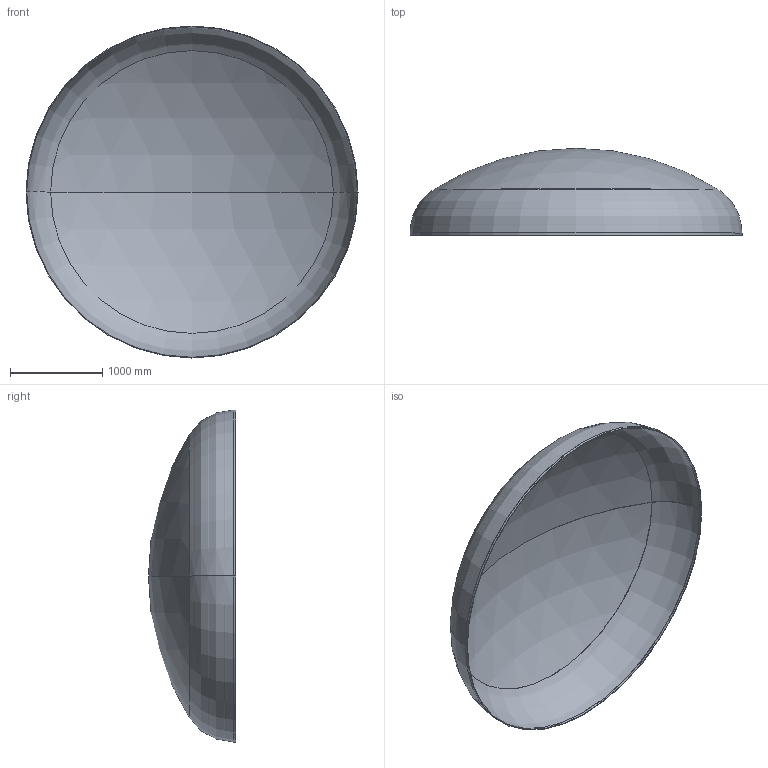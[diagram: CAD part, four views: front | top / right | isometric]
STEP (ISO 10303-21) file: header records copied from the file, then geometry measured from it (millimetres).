
FILE_DESCRIPTION (( 'STEP AP203' ), '1' );
FILE_NAME ('DIN 28013 Korbbogenform_-_Boden DIN 28013 - 3600 x 25 - I - s=7.step', '2016-07-01T20:02:29', ( '' ), ( '' ), 'SwSTEP 2.0', 'SolidWorks 2013', '' );
FILE_SCHEMA (( 'CONFIG_CONTROL_DESIGN' ));
Length unit declared in the file: millimetre
Products named in the file (1): DIN 28013 Korbbogenform_-_Boden DIN 28013 - 3600 x 25 - I - s=7
Bounding box: 3600 x 944.01 x 3600 mm (x, y, z)
Volume: 100433852.5 mm3; surface area: 28774491.4 mm2
Topology: 1 solids, 1 shells, 13 faces, 24 edges, 14 vertices
Faces by surface type: torus 4, cylinder 4, sphere 4, plane 1
Entity records: 407 total; most frequent: DIRECTION 72, CARTESIAN_POINT 52, ORIENTED_EDGE 48, AXIS2_PLACEMENT_3D 34, EDGE_CURVE 24, CIRCLE 20, EDGE_LOOP 14, VERTEX_POINT 14
